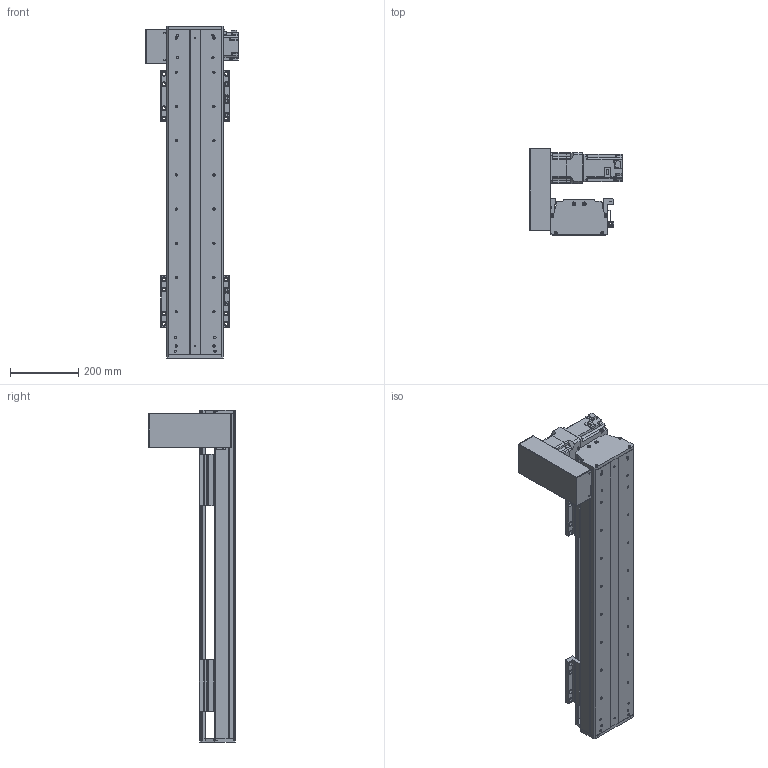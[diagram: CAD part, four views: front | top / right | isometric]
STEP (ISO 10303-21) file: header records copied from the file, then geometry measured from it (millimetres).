
FILE_DESCRIPTION(/* description */ (''),/* implementation_level */ '2;1');
FILE_NAME(/* name */ 'C:\Users\PC\Desktop\3D도면\STEP\DSB165-UL7G-W0600-R.stp',/* time_stamp */ '2018-06-25T15:02:45+09:00',/* author */ ('PC'),/* organization */ (''),/* preprocessor_version */ 'ST-DEVELOPER v16.5',/* originating_system */ 'Autodesk Inventor 2017',/* authorisation */ '');
FILE_SCHEMA (('AUTOMOTIVE_DESIGN { 1 0 10303 214 3 1 1 }'));
Length unit declared in the file: millimetre
Products named in the file (12): DSB165-L; DSR165-BASE_S; hg-kr73_; ab0901-p0401300102; 11-DBS165 BELT COVER; DBS165-COVER; DBS165-COVER_1; DBS165-UP COVER; DSR126-SENSOR DOG; pm-y65_step; SENSOR BRACKET(EE-SX674A); DBS165-TABLE(MSA20S)
Assembly tree (16 placements, depth 2):
  DSB165-L
    DSR165-BASE_S
    hg-kr73_
    ab0901-p0401300102
    11-DBS165 BELT COVER
    DBS165-COVER
    DBS165-COVER_1
    DBS165-UP COVER
    DSR126-SENSOR DOG
    pm-y65_step  x3
    SENSOR BRACKET(EE-SX674A)  x3
    DBS165-TABLE(MSA20S)  x2
Bounding box: 270 x 254 x 970 mm (x, y, z)
Volume: 7038603.3 mm3; surface area: 1620192.9 mm2
Topology: 17 solids, 22 shells, 1663 faces, 4465 edges, 2946 vertices
Faces by surface type: plane 926, cylinder 617, cone 108, sphere 8, torus 4
Full cylindrical faces by diameter (mm): 2.459 x20, 3.5 x6, 4.134 x42, 4.5 x18, 5 x27, 5.5 x36, 5.9 x4, 6 x8, 6.6 x14, 6.647 x36, 6.8 x1, 7 x4, 7.6 x4, 8 x1, 8.4 x1, 8.5 x24, 8.7 x1, 9.5 x32, 11 x6, 14 x16, 19 x1, 22 x1, 24 x1, 25 x1, 28 x1, 67 x1, 70 x2, 80 x1
Entity records: 35389 total; most frequent: DIRECTION 6252, CARTESIAN_POINT 6067, ORIENTED_EDGE 5526, EDGE_CURVE 2768, AXIS2_PLACEMENT_3D 2296, VERTEX_POINT 1973, EDGE_LOOP 1723, LINE 1660
